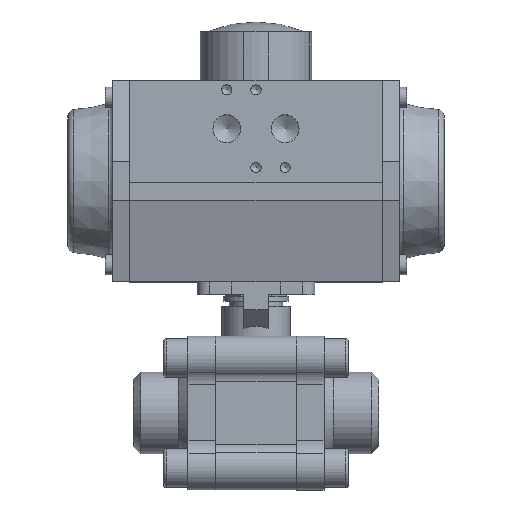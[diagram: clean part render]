
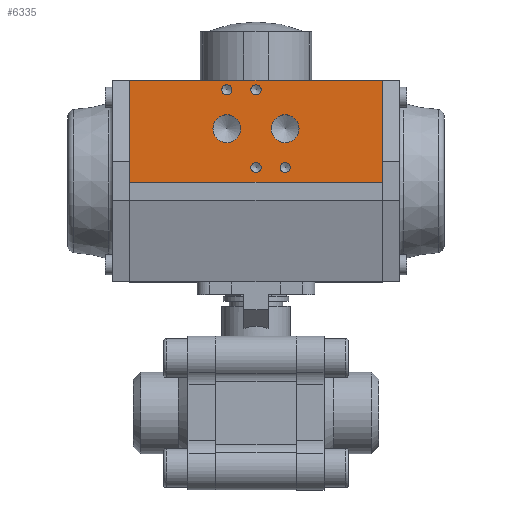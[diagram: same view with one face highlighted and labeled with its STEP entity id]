
A CAD part, top view. The second image highlights one B-rep face of the part: STEP entity #6335.
In plain terms, the highlighted planar face has unit normal (0, 0, 1) as drawn and (1, 0, 0) by its records, which use the part's own axes.
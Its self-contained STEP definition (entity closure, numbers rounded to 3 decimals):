
#45 = CARTESIAN_POINT ( 'NONE',  ( 42.5, 37.5, 0. ) ) ;
#49 = CARTESIAN_POINT ( 'NONE',  ( 42.5, 21.5, -12. ) ) ;
#141 = VERTEX_POINT ( 'NONE', #6594 ) ;
#367 = LINE ( 'NONE', #8228, #4268 ) ;
#456 = FACE_BOUND ( 'NONE', #957, .T. ) ;
#624 = ORIENTED_EDGE ( 'NONE', *, *, #9673, .T. ) ;
#729 = AXIS2_PLACEMENT_3D ( 'NONE', #988, #8816, #5346 ) ;
#766 = AXIS2_PLACEMENT_3D ( 'NONE', #49, #3481, #5406 ) ;
#861 = DIRECTION ( 'NONE',  ( 0., 0., -1. ) ) ;
#957 = EDGE_LOOP ( 'NONE', ( #2372 ) ) ;
#988 = CARTESIAN_POINT ( 'NONE',  ( 42.5, 5.5, -12. ) ) ;
#996 = VECTOR ( 'NONE', #5493, 1000. ) ;
#1616 = EDGE_LOOP ( 'NONE', ( #8664 ) ) ;
#1763 = EDGE_CURVE ( 'NONE', #6314, #3246, #4714, .T. ) ;
#1789 = DIRECTION ( 'NONE',  ( 1., 0., 0. ) ) ;
#1806 = CARTESIAN_POINT ( 'NONE',  ( 42.5, 41.5, -52. ) ) ;
#1860 = EDGE_CURVE ( 'NONE', #8114, #6314, #8227, .T. ) ;
#1947 = CARTESIAN_POINT ( 'NONE',  ( 42.5, 37.5, 9.9 ) ) ;
#2115 = ORIENTED_EDGE ( 'NONE', *, *, #2377, .F. ) ;
#2372 = ORIENTED_EDGE ( 'NONE', *, *, #3345, .F. ) ;
#2377 = EDGE_CURVE ( 'NONE', #141, #141, #3286, .T. ) ;
#2636 = LINE ( 'NONE', #1806, #9120 ) ;
#2751 = ORIENTED_EDGE ( 'NONE', *, *, #11381, .F. ) ;
#2795 = CARTESIAN_POINT ( 'NONE',  ( 42.5, -0.5, 52. ) ) ;
#2989 = AXIS2_PLACEMENT_3D ( 'NONE', #4971, #7487, #10120 ) ;
#3104 = AXIS2_PLACEMENT_3D ( 'NONE', #45, #1789, #861 ) ;
#3138 = VECTOR ( 'NONE', #8259, 1000. ) ;
#3163 = ORIENTED_EDGE ( 'NONE', *, *, #7233, .T. ) ;
#3199 = FACE_OUTER_BOUND ( 'NONE', #5016, .T. ) ;
#3234 = AXIS2_PLACEMENT_3D ( 'NONE', #5052, #11295, #6745 ) ;
#3246 = VERTEX_POINT ( 'NONE', #10761 ) ;
#3286 = CIRCLE ( 'NONE', #3104, 2.1 ) ;
#3345 = EDGE_CURVE ( 'NONE', #3684, #3684, #6706, .T. ) ;
#3409 = ORIENTED_EDGE ( 'NONE', *, *, #4827, .F. ) ;
#3463 = CIRCLE ( 'NONE', #8645, 2.1 ) ;
#3481 = DIRECTION ( 'NONE',  ( 1., 0., 0. ) ) ;
#3684 = VERTEX_POINT ( 'NONE', #1947 ) ;
#3701 = VERTEX_POINT ( 'NONE', #10075 ) ;
#4067 = EDGE_CURVE ( 'NONE', #10806, #10806, #7259, .T. ) ;
#4100 = CARTESIAN_POINT ( 'NONE',  ( 42.5, -0.5, -52. ) ) ;
#4268 = VECTOR ( 'NONE', #7359, 1000. ) ;
#4364 = DIRECTION ( 'NONE',  ( 0., 0., 1. ) ) ;
#4516 = DIRECTION ( 'NONE',  ( 0., 0., -1. ) ) ;
#4714 = LINE ( 'NONE', #2795, #3138 ) ;
#4827 = EDGE_CURVE ( 'NONE', #7533, #7533, #9692, .T. ) ;
#4882 = PLANE ( 'NONE',  #3234 ) ;
#4936 = DIRECTION ( 'NONE',  ( 0., 0., -1. ) ) ;
#4971 = CARTESIAN_POINT ( 'NONE',  ( 42.5, 37.5, 12. ) ) ;
#4987 = FACE_BOUND ( 'NONE', #8970, .T. ) ;
#5016 = EDGE_LOOP ( 'NONE', ( #3163, #7389, #8427, #624 ) ) ;
#5052 = CARTESIAN_POINT ( 'NONE',  ( 42.5, -0.5, -52. ) ) ;
#5112 = FACE_BOUND ( 'NONE', #5926, .T. ) ;
#5346 = DIRECTION ( 'NONE',  ( 0., 0., -1. ) ) ;
#5406 = DIRECTION ( 'NONE',  ( 0., 0., -1. ) ) ;
#5493 = DIRECTION ( 'NONE',  ( 0., 0., 1. ) ) ;
#5916 = EDGE_LOOP ( 'NONE', ( #2115 ) ) ;
#5926 = EDGE_LOOP ( 'NONE', ( #2751 ) ) ;
#5983 = FACE_BOUND ( 'NONE', #1616, .T. ) ;
#6314 = VERTEX_POINT ( 'NONE', #9395 ) ;
#6318 = EDGE_LOOP ( 'NONE', ( #10920 ) ) ;
#6335 = ADVANCED_FACE ( 'NONE', ( #456, #9341, #5112, #11124, #4987, #5983, #3199 ), #4882, .T. ) ;
#6382 = VERTEX_POINT ( 'NONE', #8244 ) ;
#6594 = CARTESIAN_POINT ( 'NONE',  ( 42.5, 37.5, -2.1 ) ) ;
#6678 = DIRECTION ( 'NONE',  ( 1., 0., 0. ) ) ;
#6701 = AXIS2_PLACEMENT_3D ( 'NONE', #7940, #7082, #4516 ) ;
#6706 = CIRCLE ( 'NONE', #2989, 2.1 ) ;
#6745 = DIRECTION ( 'NONE',  ( 0., 1., 0. ) ) ;
#6995 = CARTESIAN_POINT ( 'NONE',  ( 42.5, 41.5, -52. ) ) ;
#7082 = DIRECTION ( 'NONE',  ( 1., 0., 0. ) ) ;
#7233 = EDGE_CURVE ( 'NONE', #10623, #3246, #2636, .T. ) ;
#7259 = CIRCLE ( 'NONE', #6701, 5.722 ) ;
#7359 = DIRECTION ( 'NONE',  ( 0., 1., 0. ) ) ;
#7389 = ORIENTED_EDGE ( 'NONE', *, *, #1763, .F. ) ;
#7487 = DIRECTION ( 'NONE',  ( 1., 0., 0. ) ) ;
#7533 = VERTEX_POINT ( 'NONE', #11028 ) ;
#7940 = CARTESIAN_POINT ( 'NONE',  ( 42.5, 21.5, 12. ) ) ;
#8114 = VERTEX_POINT ( 'NONE', #4100 ) ;
#8227 = LINE ( 'NONE', #8330, #996 ) ;
#8228 = CARTESIAN_POINT ( 'NONE',  ( 42.5, -0.5, -52. ) ) ;
#8244 = CARTESIAN_POINT ( 'NONE',  ( 42.5, 5.5, -2.1 ) ) ;
#8259 = DIRECTION ( 'NONE',  ( 0., 1., 0. ) ) ;
#8330 = CARTESIAN_POINT ( 'NONE',  ( 42.5, -0.5, -52. ) ) ;
#8335 = CARTESIAN_POINT ( 'NONE',  ( 42.5, 21.5, 6.277 ) ) ;
#8427 = ORIENTED_EDGE ( 'NONE', *, *, #1860, .F. ) ;
#8645 = AXIS2_PLACEMENT_3D ( 'NONE', #10951, #6678, #4936 ) ;
#8664 = ORIENTED_EDGE ( 'NONE', *, *, #4067, .F. ) ;
#8697 = EDGE_CURVE ( 'NONE', #3701, #3701, #9628, .T. ) ;
#8816 = DIRECTION ( 'NONE',  ( 1., 0., 0. ) ) ;
#8970 = EDGE_LOOP ( 'NONE', ( #3409 ) ) ;
#9120 = VECTOR ( 'NONE', #4364, 1000. ) ;
#9341 = FACE_BOUND ( 'NONE', #6318, .T. ) ;
#9395 = CARTESIAN_POINT ( 'NONE',  ( 42.5, -0.5, 52. ) ) ;
#9628 = CIRCLE ( 'NONE', #729, 2.1 ) ;
#9673 = EDGE_CURVE ( 'NONE', #8114, #10623, #367, .T. ) ;
#9692 = CIRCLE ( 'NONE', #766, 5.722 ) ;
#10075 = CARTESIAN_POINT ( 'NONE',  ( 42.5, 5.5, -14.1 ) ) ;
#10120 = DIRECTION ( 'NONE',  ( 0., 0., -1. ) ) ;
#10623 = VERTEX_POINT ( 'NONE', #6995 ) ;
#10761 = CARTESIAN_POINT ( 'NONE',  ( 42.5, 41.5, 52. ) ) ;
#10806 = VERTEX_POINT ( 'NONE', #8335 ) ;
#10920 = ORIENTED_EDGE ( 'NONE', *, *, #8697, .F. ) ;
#10951 = CARTESIAN_POINT ( 'NONE',  ( 42.5, 5.5, 0. ) ) ;
#11028 = CARTESIAN_POINT ( 'NONE',  ( 42.5, 21.5, -17.722 ) ) ;
#11124 = FACE_BOUND ( 'NONE', #5916, .T. ) ;
#11295 = DIRECTION ( 'NONE',  ( 1., 0., 0. ) ) ;
#11381 = EDGE_CURVE ( 'NONE', #6382, #6382, #3463, .T. ) ;
